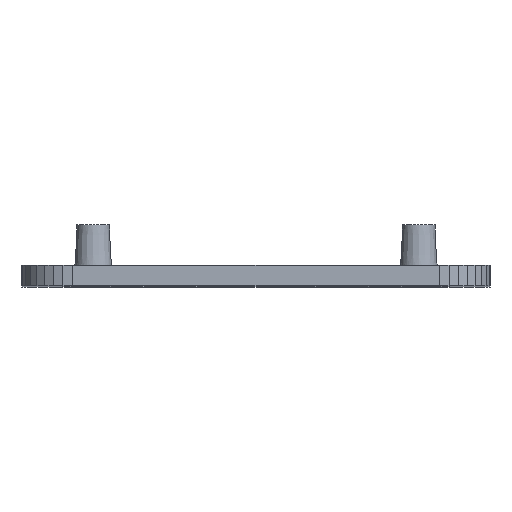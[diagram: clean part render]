
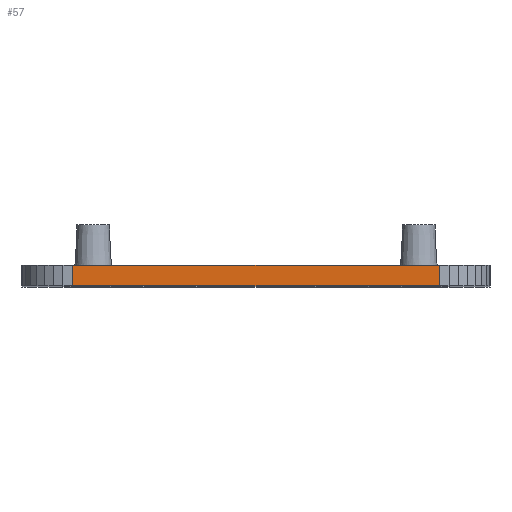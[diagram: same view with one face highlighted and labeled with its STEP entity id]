
A CAD part, top view. The second image highlights one B-rep face of the part: STEP entity #57.
In plain terms, the highlighted planar face has unit normal (0, 0, 1).
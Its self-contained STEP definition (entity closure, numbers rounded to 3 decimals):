
#21 = EDGE_CURVE('',#22,#24,#26,.T.);
#22 = VERTEX_POINT('',#23);
#23 = CARTESIAN_POINT('',(26.5,-14.5,15.5));
#24 = VERTEX_POINT('',#25);
#25 = CARTESIAN_POINT('',(26.5,-13.5,15.5));
#26 = LINE('',#27,#28);
#27 = CARTESIAN_POINT('',(26.5,-14.5,15.5));
#28 = VECTOR('',#29,1.);
#29 = DIRECTION('',(0.,1.,0.));
#57 = ADVANCED_FACE('',(#58),#83,.F.);
#58 = FACE_BOUND('',#59,.F.);
#59 = EDGE_LOOP('',(#60,#70,#76,#77));
#60 = ORIENTED_EDGE('',*,*,#61,.T.);
#61 = EDGE_CURVE('',#62,#64,#66,.T.);
#62 = VERTEX_POINT('',#63);
#63 = CARTESIAN_POINT('',(8.5,-14.5,15.5));
#64 = VERTEX_POINT('',#65);
#65 = CARTESIAN_POINT('',(8.5,-13.5,15.5));
#66 = LINE('',#67,#68);
#67 = CARTESIAN_POINT('',(8.5,-14.5,15.5));
#68 = VECTOR('',#69,1.);
#69 = DIRECTION('',(0.,1.,0.));
#70 = ORIENTED_EDGE('',*,*,#71,.T.);
#71 = EDGE_CURVE('',#64,#24,#72,.T.);
#72 = LINE('',#73,#74);
#73 = CARTESIAN_POINT('',(8.5,-13.5,15.5));
#74 = VECTOR('',#75,1.);
#75 = DIRECTION('',(1.,0.,0.));
#76 = ORIENTED_EDGE('',*,*,#21,.F.);
#77 = ORIENTED_EDGE('',*,*,#78,.F.);
#78 = EDGE_CURVE('',#62,#22,#79,.T.);
#79 = LINE('',#80,#81);
#80 = CARTESIAN_POINT('',(8.5,-14.5,15.5));
#81 = VECTOR('',#82,1.);
#82 = DIRECTION('',(1.,0.,0.));
#83 = PLANE('',#84);
#84 = AXIS2_PLACEMENT_3D('',#85,#86,#87);
#85 = CARTESIAN_POINT('',(8.5,-14.5,15.5));
#86 = DIRECTION('',(0.,0.,-1.));
#87 = DIRECTION('',(1.,0.,0.));
